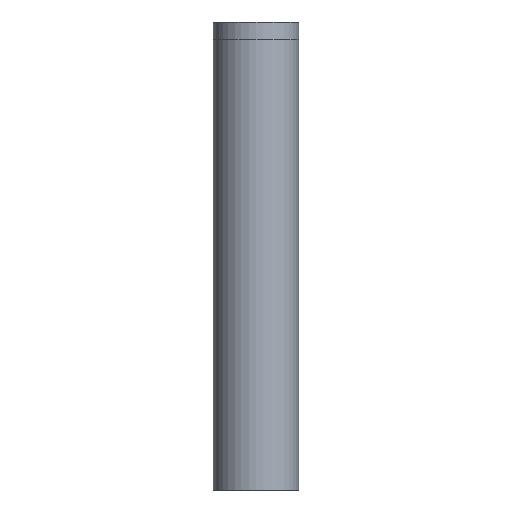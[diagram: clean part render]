
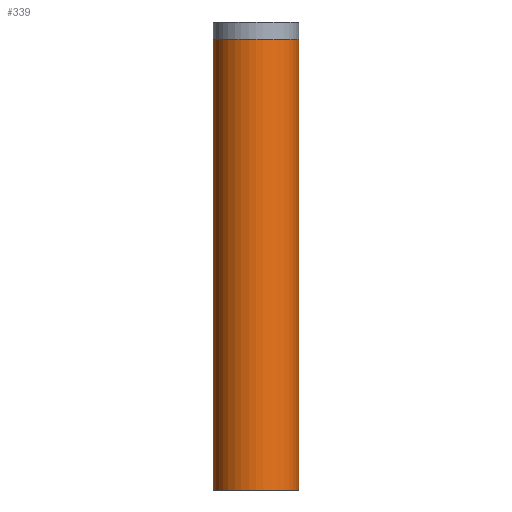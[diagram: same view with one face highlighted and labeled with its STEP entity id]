
A CAD part, left-side view. The second image highlights one B-rep face of the part: STEP entity #339.
In plain terms, the highlighted cylindrical face has radius 10 mm (diameter 20 mm), a partial arc.
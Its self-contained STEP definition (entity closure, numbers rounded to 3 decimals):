
#258 = VERTEX_POINT('',#259);
#259 = CARTESIAN_POINT('',(-85.,0.,105.));
#265 = EDGE_CURVE('',#258,#266,#268,.T.);
#266 = VERTEX_POINT('',#267);
#267 = CARTESIAN_POINT('',(-85.,-20.,105.));
#268 = CIRCLE('',#269,10.);
#269 = AXIS2_PLACEMENT_3D('',#270,#271,#272);
#270 = CARTESIAN_POINT('',(-85.,-10.,105.));
#271 = DIRECTION('',(0.,0.,1.));
#272 = DIRECTION('',(1.,0.,-0.));
#322 = VERTEX_POINT('',#323);
#323 = CARTESIAN_POINT('',(-85.,0.,0.)
  );
#329 = EDGE_CURVE('',#322,#258,#330,.T.);
#330 = LINE('',#331,#332);
#331 = CARTESIAN_POINT('',(-85.,0.,105.));
#332 = VECTOR('',#333,1.);
#333 = DIRECTION('',(0.,0.,1.));
#339 = ADVANCED_FACE('',(#340),#359,.T.);
#340 = FACE_BOUND('',#341,.T.);
#341 = EDGE_LOOP('',(#342,#343,#344,#353));
#342 = ORIENTED_EDGE('',*,*,#265,.F.);
#343 = ORIENTED_EDGE('',*,*,#329,.F.);
#344 = ORIENTED_EDGE('',*,*,#345,.F.);
#345 = EDGE_CURVE('',#346,#322,#348,.T.);
#346 = VERTEX_POINT('',#347);
#347 = CARTESIAN_POINT('',(-85.,-20.,0.));
#348 = CIRCLE('',#349,10.);
#349 = AXIS2_PLACEMENT_3D('',#350,#351,#352);
#350 = CARTESIAN_POINT('',(-85.,-10.,0.));
#351 = DIRECTION('',(0.,0.,-1.));
#352 = DIRECTION('',(1.,0.,0.));
#353 = ORIENTED_EDGE('',*,*,#354,.T.);
#354 = EDGE_CURVE('',#346,#266,#355,.T.);
#355 = LINE('',#356,#357);
#356 = CARTESIAN_POINT('',(-85.,-20.,105.));
#357 = VECTOR('',#358,1.);
#358 = DIRECTION('',(0.,0.,1.));
#359 = CYLINDRICAL_SURFACE('',#360,10.);
#360 = AXIS2_PLACEMENT_3D('',#361,#362,#363);
#361 = CARTESIAN_POINT('',(-85.,-10.,0.));
#362 = DIRECTION('',(0.,0.,1.));
#363 = DIRECTION('',(-1.,0.,0.));
